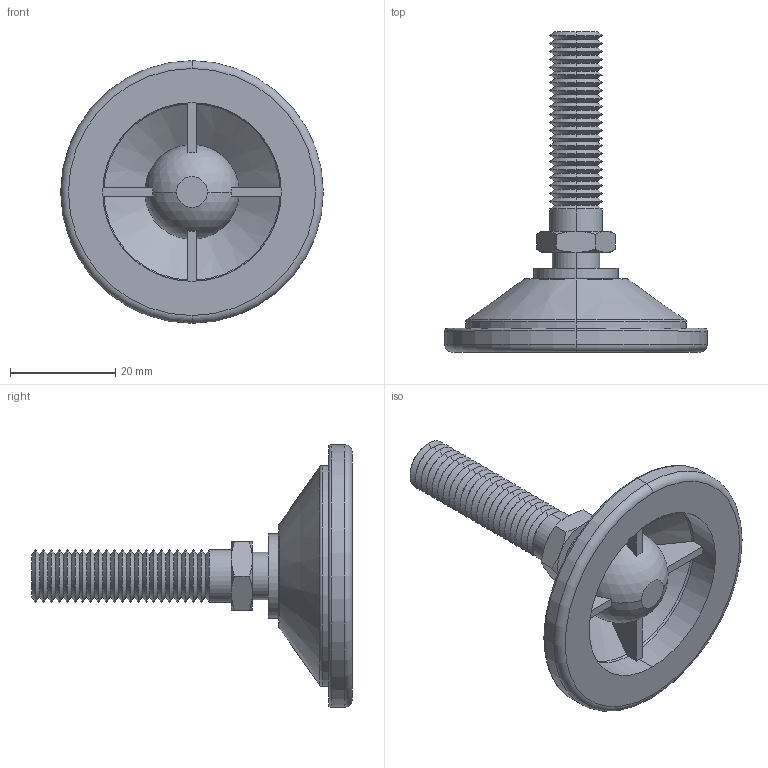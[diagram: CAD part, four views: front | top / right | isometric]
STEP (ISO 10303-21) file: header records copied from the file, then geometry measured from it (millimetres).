
FILE_DESCRIPTION (( 'STEP AP203' ), '1' );
FILE_NAME ('34741.W0101.step', '2016-09-22T07:39:26', ( 'User' ), ( '' ), 'SwSTEP 2.0', 'SolidWorks 2009', '' );
FILE_SCHEMA (( 'CONFIG_CONTROL_DESIGN' ));
Length unit declared in the file: millimetre
Products named in the file (3): Part2_34741.W0101; 34741.W0101; Part1_34741.W0101
Assembly tree (2 placements, depth 2):
  34741.W0101
    Part1_34741.W0101
    Part2_34741.W0101
Bounding box: 50 x 61 x 50 mm (x, y, z)
Volume: 14555.9 mm3; surface area: 9723.7 mm2
Topology: 2 solids, 2 shells, 168 faces, 372 edges, 210 vertices
Faces by surface type: cone 110, plane 26, cylinder 14, torus 12, sphere 6
Entity records: 4937 total; most frequent: CARTESIAN_POINT 941, DIRECTION 862, ORIENTED_EDGE 726, AXIS2_PLACEMENT_3D 366, EDGE_CURVE 363, VERTEX_POINT 205, CIRCLE 193, EDGE_LOOP 174
